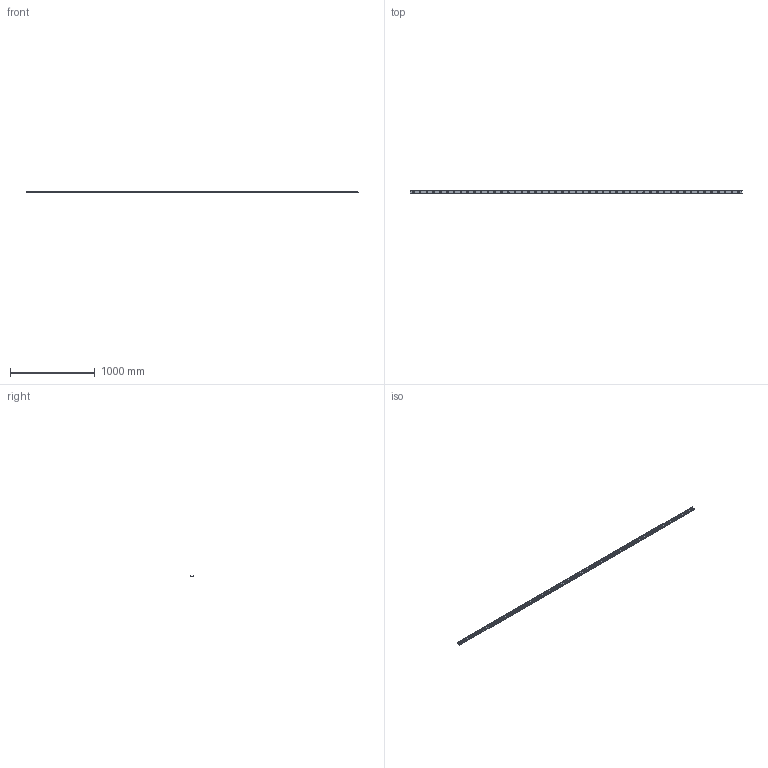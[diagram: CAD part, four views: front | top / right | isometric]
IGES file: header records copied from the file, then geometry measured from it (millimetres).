
Start section: SolidWorks IGES file using analytic representation for surfaces
Global section: file name: C:\Users\IanO\Desktop\43\L1943.ULC43_v2_20180121_IGES\L1943.ULC43-3920.igs; native system: SolidWorks 2017; preprocessor: SolidWorks 2017; author: IanO; date: 190121.085442; units: millimetre
Bounding box: 3920 x 43 x 21 mm (x, y, z)
Surface area: 614533.3 mm2 (no closed solid volume)
Topology: 0 solids, 0 shells, 271 faces, 7350 edges, 7350 vertices
Faces by surface type: revolution 209, bspline 62
